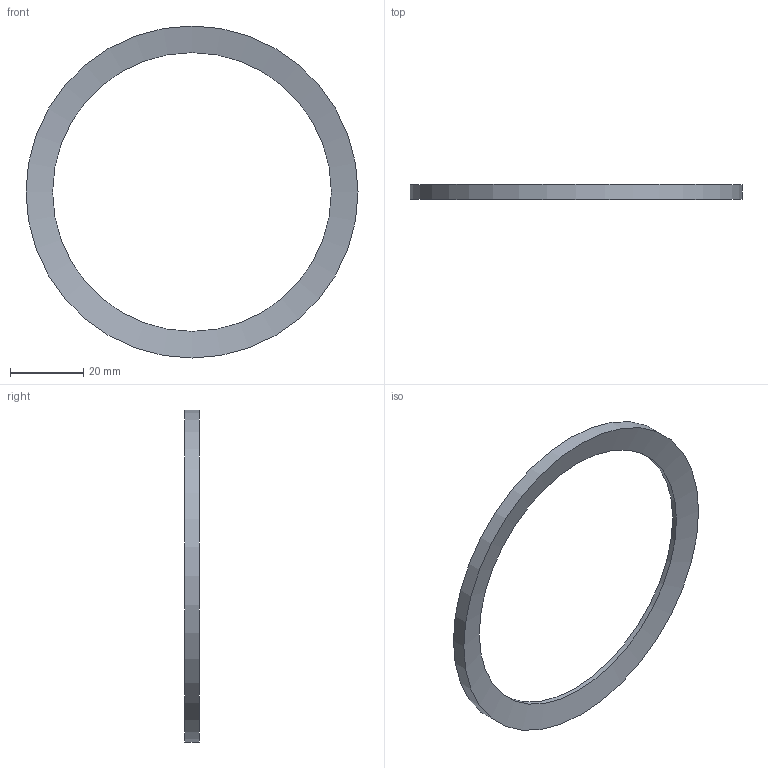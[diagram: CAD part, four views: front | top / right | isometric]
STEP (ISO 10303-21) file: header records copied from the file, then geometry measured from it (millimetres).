
FILE_DESCRIPTION(/* description */ (''),/* implementation_level */ '2;1');
FILE_NAME(/* name */ 'Z:\Geberit\Export\NewStep\365782.stp',/* time_stamp */ '2014-04-02T07:35:26+02:00',/* author */ ('nelson'),/* organization */ (''),/* preprocessor_version */ 'ST-DEVELOPER v15.2',/* originating_system */ 'Autodesk Inventor 2014',/* authorisation */ '');
FILE_SCHEMA (('AUTOMOTIVE_DESIGN { 1 0 10303 214 3 1 1 }'));
Length unit declared in the file: millimetre
Products named in the file (1): 365782
Bounding box: 90.5 x 4 x 90.5 mm (x, y, z)
Volume: 5231 mm3; surface area: 5332.6 mm2
Topology: 1 solids, 1 shells, 4 faces, 8 edges, 4 vertices
Faces by surface type: cylinder 2, cone 2
Full cylindrical faces by diameter (mm): 76 x1, 90.5 x1
Entity records: 113 total; most frequent: DIRECTION 18, CARTESIAN_POINT 13, AXIS2_PLACEMENT_3D 9, EDGE_LOOP 8, ORIENTED_EDGE 8, STYLED_ITEM 5, FACE_BOUND 4, FACE_OUTER_BOUND 4
